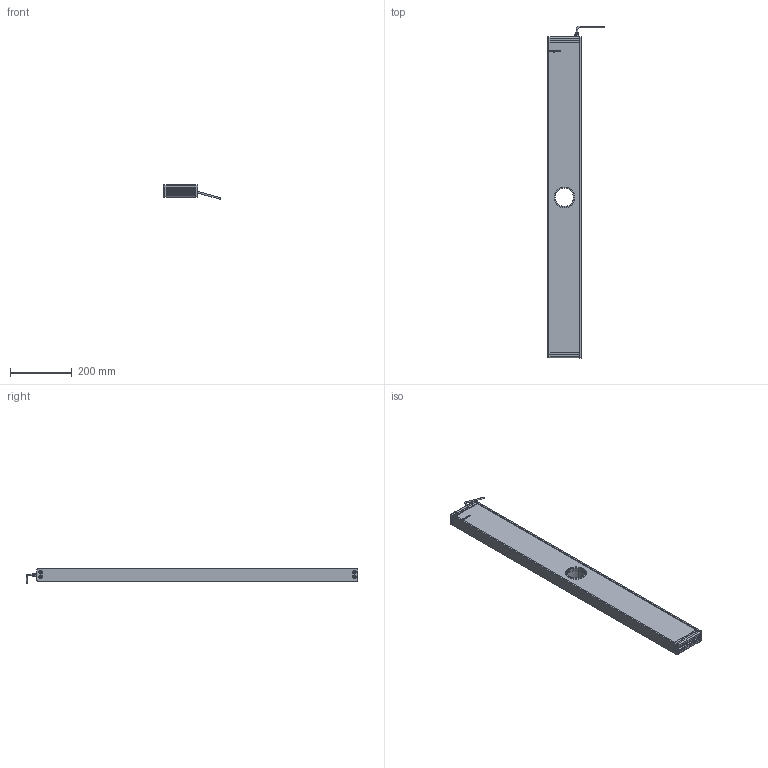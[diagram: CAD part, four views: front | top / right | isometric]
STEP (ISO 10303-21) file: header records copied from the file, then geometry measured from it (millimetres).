
FILE_DESCRIPTION (( 'STEP AP214' ), '1' );
FILE_NAME ('EFFI-FD-100T-1000-M12 Ø58.5.STEP', '2021-07-02T12:07:31', ( '' ), ( '' ), 'SwSTEP 2.0', 'SolidWorks 2021', '' );
FILE_SCHEMA (( 'AUTOMOTIVE_DESIGN' ));
Length unit declared in the file: millimetre
Products named in the file (11): profile modif_lg 99.5 mm; cordon_Avec cable; 000590; bord fin modif_lg 436.5 mm; 003776; Assemblage Ø58.5; EFFI-FD-100T-1000-M12 Ø58.5; 001037; 001038; Pièce2^EFFI-FD-XXXT-YYY-M12 Ø58.5
Assembly tree (20 placements, depth 3):
  EFFI-FD-100T-1000-M12 Ø58.5
    profile modif_lg 99.5 mm
    bord fin modif_lg 436.5 mm  x2
    Pièce2^EFFI-FD-XXXT-YYY-M12 Ø58.5
    profile modif_lg 99.5 mm
    003776  x8
    cordon_Avec cable
    Assemblage Ø58.5
      001037
      001038
      000590  x3
Bounding box: 184.41 x 1071.15 x 47.08 mm (x, y, z)
Volume: 3908356 mm3; surface area: 532196.9 mm2
Topology: 18 solids, 24 shells, 997 faces, 2503 edges, 1569 vertices
Faces by surface type: plane 391, cylinder 231, bspline 180, cone 152, torus 35, sphere 8
Entity records: 25439 total; most frequent: CARTESIAN_POINT 8620, ORIENTED_EDGE 3290, DIRECTION 3029, EDGE_CURVE 1649, VERTEX_POINT 1066, AXIS2_PLACEMENT_3D 1021, VECTOR 987, LINE 987
